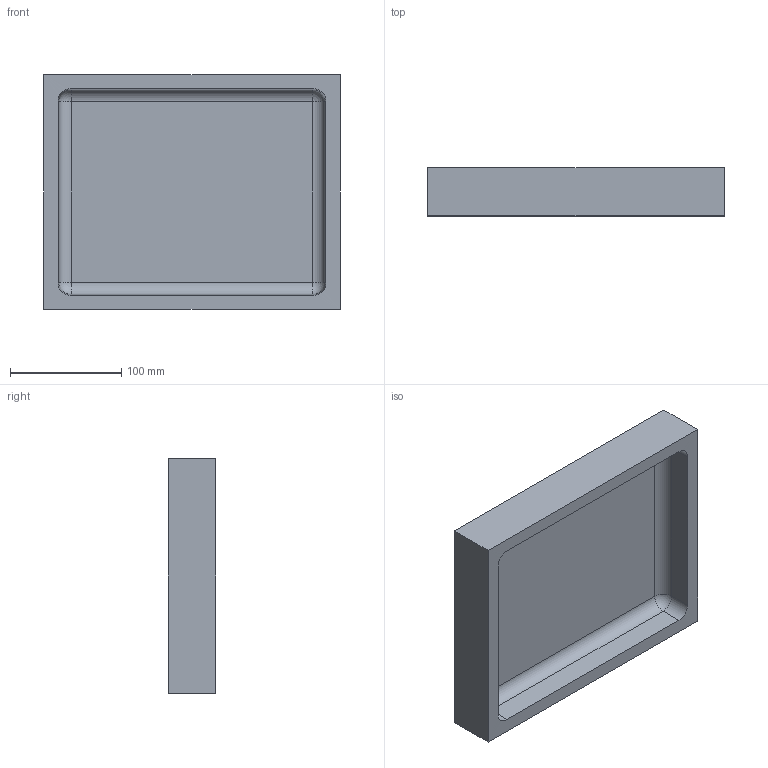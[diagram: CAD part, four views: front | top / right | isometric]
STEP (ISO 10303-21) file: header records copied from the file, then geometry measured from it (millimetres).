
FILE_DESCRIPTION (( 'STEP AP214' ), '1' );
FILE_NAME ('1300E - 933 TOP PID 2-21-2025.STEP', '2025-05-22T00:35:28', ( '' ), ( '' ), 'SwSTEP 2.0', 'SolidWorks 2021', '' );
FILE_SCHEMA (( 'AUTOMOTIVE_DESIGN' ));
Length unit declared in the file: inch
Products named in the file (1): 1300E - 933 TOP PID 2-21-2025
Bounding box: 266.44 x 42.93 x 211.07 mm (x, y, z)
Volume: 1097630.5 mm3; surface area: 174028.9 mm2
Topology: 1 solids, 1 shells, 24 faces, 66 edges, 41 vertices
Faces by surface type: plane 11, cylinder 8, sphere 4, bspline 1
Entity records: 807 total; most frequent: CARTESIAN_POINT 205, ORIENTED_EDGE 124, DIRECTION 104, EDGE_CURVE 62, VERTEX_POINT 41, AXIS2_PLACEMENT_3D 36, VECTOR 32, LINE 32
